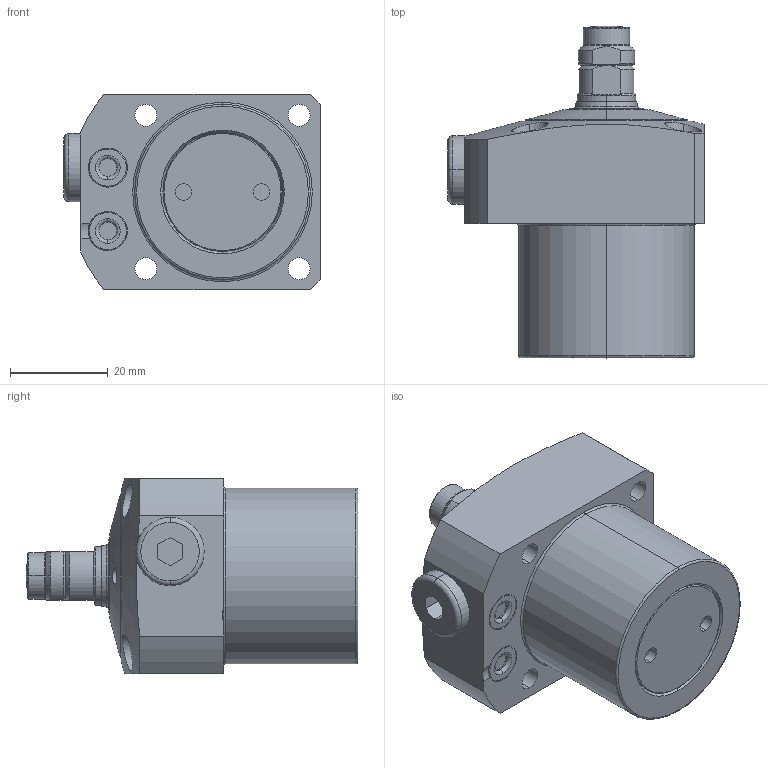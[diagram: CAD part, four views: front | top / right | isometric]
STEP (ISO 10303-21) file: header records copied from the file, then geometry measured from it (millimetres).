
FILE_DESCRIPTION(/* description */ (''),/* implementation_level */ '2;1');
FILE_NAME(/* name */ 'KFSC36-M.stp',/* time_stamp */ '2026-02-04T16:38:50+08:00',/* author */ (''),/* organization */ (''),/* preprocessor_version */ 'ST-DEVELOPER v16.7',/* originating_system */ 'SIEMENS PLM Software NX 12.0',/* authorisation */ '');
FILE_SCHEMA (('AUTOMOTIVE_DESIGN { 1 0 10303 214 3 1 1 1 }'));
Length unit declared in the file: millimetre
Products named in the file (10): XLD-M8SP_contactbolt; XLD-M8_Oring; XLD-M8SP_pin; XLD-M8SP_pad; KFSC36-M-01; KFSC36-M-04; P5-4; KFSC36-M-02; KFSC36-M-03; LC0363-CxM_step
Assembly tree (10 placements, depth 3):
  LC0363-CxM_step
    KFSC36-M-03
      XLD-M8SP_pad
      XLD-M8SP_pin
      XLD-M8_Oring
      XLD-M8SP_contactbolt
    KFSC36-M-02
    P5-4  x2
    KFSC36-M-04
    KFSC36-M-01
Bounding box: 52.5 x 68 x 40 mm (x, y, z)
Volume: 67813.5 mm3; surface area: 15610.2 mm2
Topology: 9 solids, 9 shells, 274 faces, 608 edges, 369 vertices
Faces by surface type: cylinder 93, torus 63, plane 62, cone 50, sphere 6
Entity records: 8321 total; most frequent: CARTESIAN_POINT 2015, DIRECTION 1394, ORIENTED_EDGE 1160, AXIS2_PLACEMENT_3D 601, EDGE_CURVE 580, VERTEX_POINT 355, CIRCLE 328, EDGE_LOOP 303
